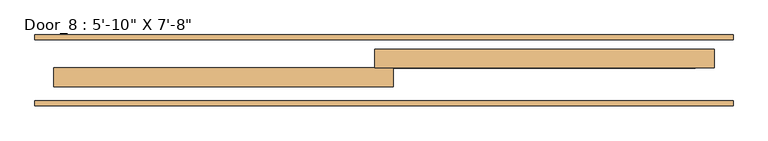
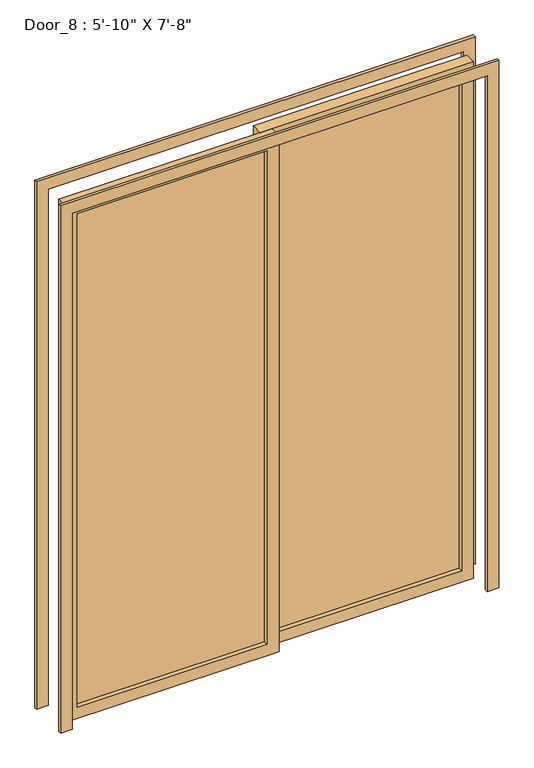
"""IFC4 building model written with IfcOpenShell, lengths in millimetres: door geometry."""

from ifc_helpers import new_model, si_unit, frame, origin, place, context, project, spatial, polyline, outline, extrude, source, transform, mapped, element, save


def door_e0712a00(model_context):
    return source(origin(), model_context, "Body", "SweptSolid", [
        extrude(outline(polyline([(2336.8, 889.0), (0.0, 889.0), (0.0, 939.8), (2387.6, 939.8), (2387.6, -939.8), (0.0, -939.8), (0.0, -889.0), (2336.8, -889.0), (2336.8, 889.0)])), frame((0.0, -222.25, 0.0), z_axis=(0.0, 1.0, 0.0), x_axis=(0.0, 0.0, 1.0)), (0.0, 0.0, 1.0), 12.7),
        extrude(outline(polyline([(0.0, 889.0), (0.0, 939.8), (2387.6, 939.8), (2387.6, -939.8), (0.0, -939.8), (0.0, -889.0), (2336.8, -889.0), (2336.8, 889.0), (0.0, 889.0)])), frame((0.0, -44.45, 0.0), z_axis=(0.0, 1.0, 0.0), x_axis=(0.0, 0.0, 1.0)), (0.0, 0.0, 1.0), 12.7),
        extrude(outline(polyline([(2336.8, 889.0), (2336.8, -25.4), (0.0, -25.4), (0.0, 889.0), (2336.8, 889.0)]), holes=[polyline([(2286.0, 838.2), (50.8, 838.2), (50.8, 25.4), (2286.0, 25.4), (2286.0, 838.2)])]), frame((0.0, -120.65, 0.0), z_axis=(0.0, 1.0, 0.0), x_axis=(0.0, 0.0, 1.0)), (0.0, 0.0, 1.0), 50.8),
        extrude(outline(polyline([(2336.8, 25.4), (2336.8, -889.0), (0.0, -889.0), (0.0, 25.4), (2336.8, 25.4)]), holes=[polyline([(2286.0, -25.4), (50.8, -25.4), (50.8, -838.2), (2286.0, -838.2), (2286.0, -25.4)])]), frame((0.0, -171.45, 0.0), z_axis=(0.0, 1.0, 0.0), x_axis=(0.0, 0.0, 1.0)), (0.0, 0.0, 1.0), 50.8),
        extrude(outline(polyline([(838.2, -88.9), (838.2, -101.6), (25.4, -101.6), (25.4, -88.9), (838.2, -88.9)])), frame((0.0, 0.0, 50.8), z_axis=(0.0, 0.0, 1.0), x_axis=(1.0, 0.0, 0.0)), (0.0, 0.0, 1.0), 2235.2),
        extrude(outline(polyline([(-25.4, -139.7), (-25.4, -152.4), (-838.2, -152.4), (-838.2, -139.7), (-25.4, -139.7)])), frame((0.0, 0.0, 50.8), z_axis=(0.0, 0.0, 1.0), x_axis=(1.0, 0.0, 0.0)), (0.0, 0.0, 1.0), 2235.2),
    ])


if __name__ == "__main__":
    model = new_model("IFC4")
    model_context = context("Model", 3, world=origin())
    ifc_project = project(units=[si_unit("LENGTHUNIT", "METRE", prefix="MILLI")], contexts=[model_context])
    site = spatial("IfcSite", under=ifc_project)
    building = spatial("IfcBuilding", under=site)
    placement = place(None, origin())
    door_shape = door_e0712a00(model_context)
    element("IfcDoor", 1, ObjectType="Door_8 : 5'-10\" X 7'-8\"", at=placement, inside=building, context=model_context, shape_type="MappedRepresentation", body=[
        mapped(door_shape, transform((0.0, 0.0, 0.0), x_axis=(1.0, 0.0, 0.0), y_axis=(0.0, 1.0, 0.0), z_axis=(0.0, 0.0, 1.0))),
    ])
    save(model, "model.ifc")
